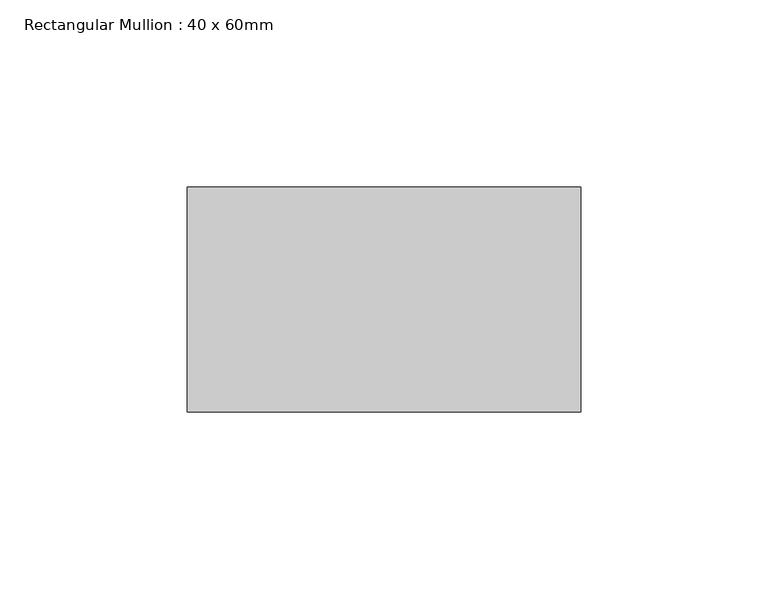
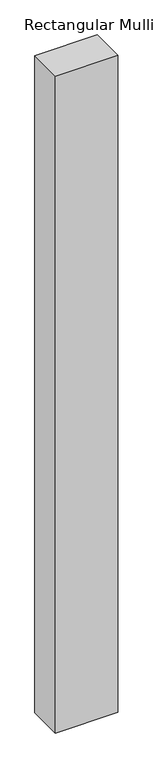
"""IFC4 building model written with IfcOpenShell, lengths in millimetres: member geometry, Rectangular Mullion : 40 x 60mm."""

from ifc_helpers import new_model, si_unit, frame, origin, place, context, project, spatial, polyline, outline, extrude, source, transform, mapped, element, save


def rectangular_mullion_40_x_60mm_3b8a71fe(model_context):
    return source(origin(), model_context, "Body", "SweptSolid", [
        extrude(outline(polyline([(80.0, -10.0), (80.0, -70.0), (-25.0, -70.0), (-25.0, -10.0), (80.0, -10.0)])), frame((0.0, 0.0, -1169.5878669), z_axis=(0.0, 0.0, 1.0), x_axis=(1.0, 0.0, 0.0)), (0.0, 0.0, 1.0), 1169.5878669),
    ])


if __name__ == "__main__":
    model = new_model("IFC4")
    model_context = context("Model", 3, world=origin())
    ifc_project = project(units=[si_unit("LENGTHUNIT", "METRE", prefix="MILLI")], contexts=[model_context])
    site = spatial("IfcSite", under=ifc_project)
    building = spatial("IfcBuilding", under=site)
    placement = place(None, origin())
    rectangular_mullion_40_x_60mm_shape = rectangular_mullion_40_x_60mm_3b8a71fe(model_context)
    element("IfcMember", 1, ObjectType="Rectangular Mullion : 40 x 60mm", at=placement, inside=building, context=model_context, shape_type="MappedRepresentation", body=[
        mapped(rectangular_mullion_40_x_60mm_shape, transform((0.0, 0.0, 0.0), x_axis=(1.0, 0.0, 0.0), y_axis=(0.0, 1.0, 0.0), z_axis=(0.0, 0.0, 1.0))),
    ])
    save(model, "model.ifc")
